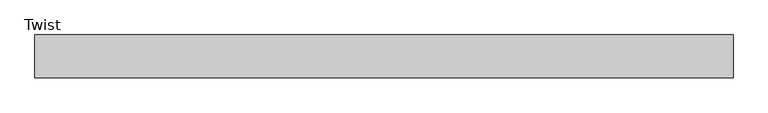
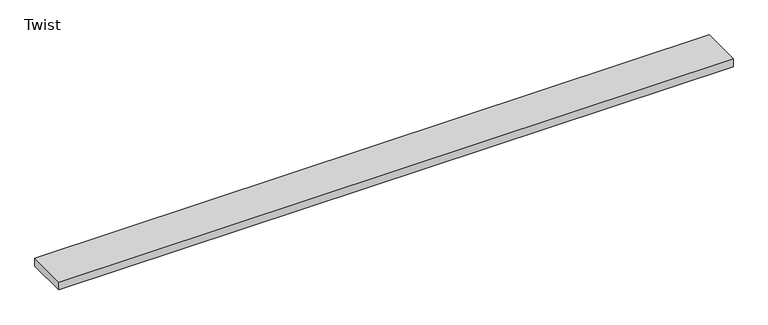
"""IFC4 building model written with IfcOpenShell, lengths in millimetres: sanitary terminal geometry, ZZZ_do not use_PF_ST_grating for showerdrain e_Aco : Twist."""

from ifc_helpers import new_model, si_unit, frame, origin, place, context, project, spatial, polyline, outline, extrude, source, transform, mapped, element, save


def twist_63049ae0(model_context):
    return source(origin(), model_context, "Body", "SweptSolid", [
        extrude(outline(polyline([(600.0, 37.0), (600.0, -37.0), (-600.0, -37.0), (-600.0, 37.0), (600.0, 37.0)])), frame((0.0, 0.0, -15.0), z_axis=(0.0, 0.0, 1.0), x_axis=(1.0, 0.0, 0.0)), (0.0, 0.0, 1.0), 15.0),
    ])


if __name__ == "__main__":
    model = new_model("IFC4")
    model_context = context("Model", 3, world=origin())
    ifc_project = project(units=[si_unit("LENGTHUNIT", "METRE", prefix="MILLI")], contexts=[model_context])
    site = spatial("IfcSite", under=ifc_project)
    building = spatial("IfcBuilding", under=site)
    placement = place(None, origin())
    twist_shape = twist_63049ae0(model_context)
    element("IfcSanitaryTerminal", 1, ObjectType="ZZZ_do not use_PF_ST_grating for showerdrain e_Aco : Twist", at=placement, inside=building, context=model_context, shape_type="MappedRepresentation", body=[
        mapped(twist_shape, transform((0.0, 0.0, 0.0), x_axis=(1.0, 0.0, 0.0), y_axis=(0.0, 1.0, 0.0), z_axis=(0.0, 0.0, 1.0))),
    ])
    save(model, "model.ifc")
